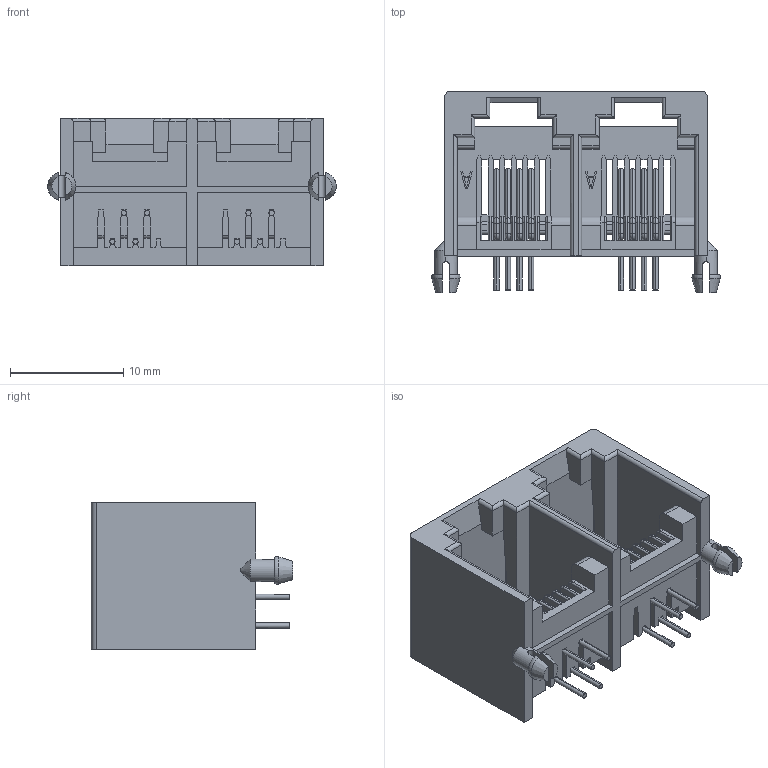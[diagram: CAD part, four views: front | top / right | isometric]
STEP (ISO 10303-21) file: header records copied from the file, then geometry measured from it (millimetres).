
FILE_DESCRIPTION(/* description */ (''),/* implementation_level */ '2;1');
FILE_NAME(/* name */ '5504_6p_缺口.stp',/* time_stamp */ '2024-08-31T08:44:19+08:00',/* author */ (''),/* organization */ (''),/* preprocessor_version */ 'ST-DEVELOPER v16',/* originating_system */ 'SIEMENS PLM Software NX 10.0',/* authorisation */ '');
FILE_SCHEMA (('AP203_CONFIGURATION_CONTROLLED_3D_DESIGN_OF_MECHANICAL_PARTS_AND_ASSEMBLIES_MIM_LF { 1 0 10303 403 2 1 2}'));
Length unit declared in the file: millimetre
Products named in the file (1): Admi471C037623zw
Bounding box: 25.5 x 17.8 x 13 mm (x, y, z)
Volume: 1541.8 mm3; surface area: 3635.1 mm2
Topology: 1 solids, 11 shells, 753 faces, 2245 edges, 1462 vertices
Faces by surface type: plane 479, cylinder 194, torus 74, cone 6
Entity records: 25674 total; most frequent: CARTESIAN_POINT 4937, ORIENTED_EDGE 4416, DIRECTION 4244, EDGE_CURVE 2245, LINE 1626, VECTOR 1626, VERTEX_POINT 1462, AXIS2_PLACEMENT_3D 1309
